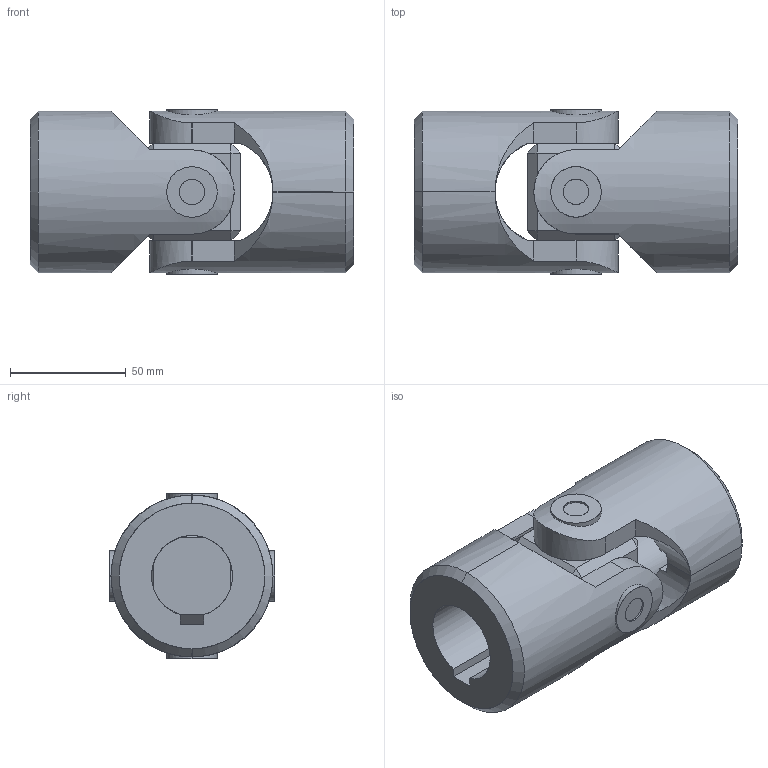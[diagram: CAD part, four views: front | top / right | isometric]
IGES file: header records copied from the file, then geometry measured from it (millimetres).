
Start section: SolidWorks IGES file using analytic representation for surfaces
Global section: file name: C:\Users\IanO\Desktop\R3690_v2\R3690_v2_20231020_IGES\R3690.035-KW.igs; native system: SolidWorks 2019; preprocessor: SolidWorks 2019; author: IanO; date: 231020.152618; units: millimetre
Bounding box: 140 x 71.4 x 71.4 mm (x, y, z)
Surface area: 76468.3 mm2 (no closed solid volume)
Topology: 0 solids, 0 shells, 110 faces, 2482 edges, 2482 vertices
Faces by surface type: bspline 62, revolution 48
